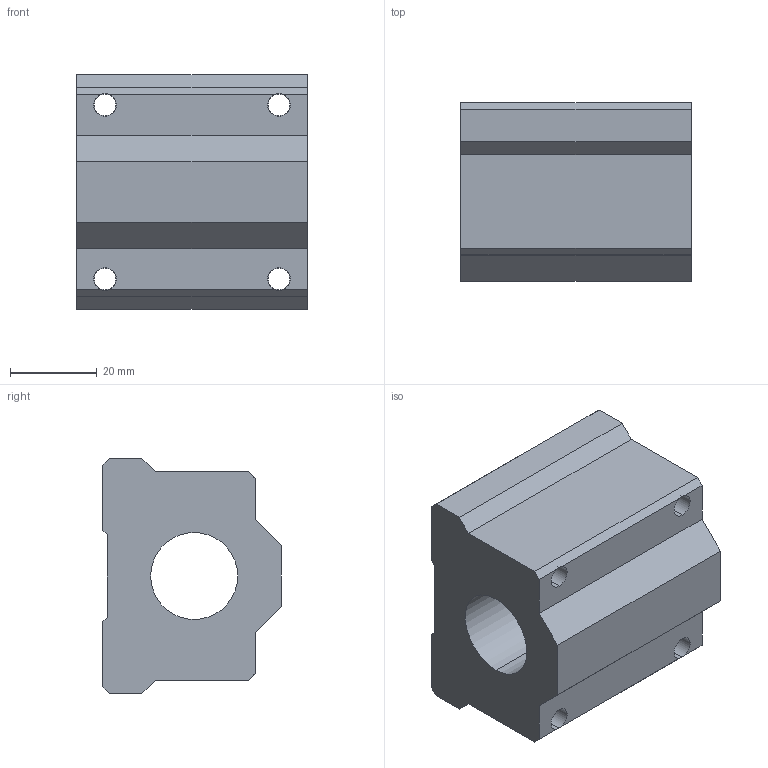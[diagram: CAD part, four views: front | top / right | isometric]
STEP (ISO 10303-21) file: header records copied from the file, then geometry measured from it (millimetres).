
FILE_DESCRIPTION (( 'STEP AP214' ), '1' );
FILE_NAME ('2.7091 Runko SCE20UU.STEP', '2024-06-25T10:24:42', ( '' ), ( '' ), 'SwSTEP 2.0', 'SolidWorks 2024', '' );
FILE_SCHEMA (( 'AUTOMOTIVE_DESIGN' ));
Length unit declared in the file: millimetre
Products named in the file (1): 2.7091 Runko SCE20UU
Bounding box: 53 x 41 x 54 mm (x, y, z)
Volume: 77915.1 mm3; surface area: 17821.4 mm2
Topology: 1 solids, 1 shells, 52 faces, 142 edges, 92 vertices
Faces by surface type: plane 26, cylinder 18, cone 8
Entity records: 1689 total; most frequent: CARTESIAN_POINT 311, ORIENTED_EDGE 284, DIRECTION 284, EDGE_CURVE 142, AXIS2_PLACEMENT_3D 97, VERTEX_POINT 92, LINE 90, VECTOR 90
